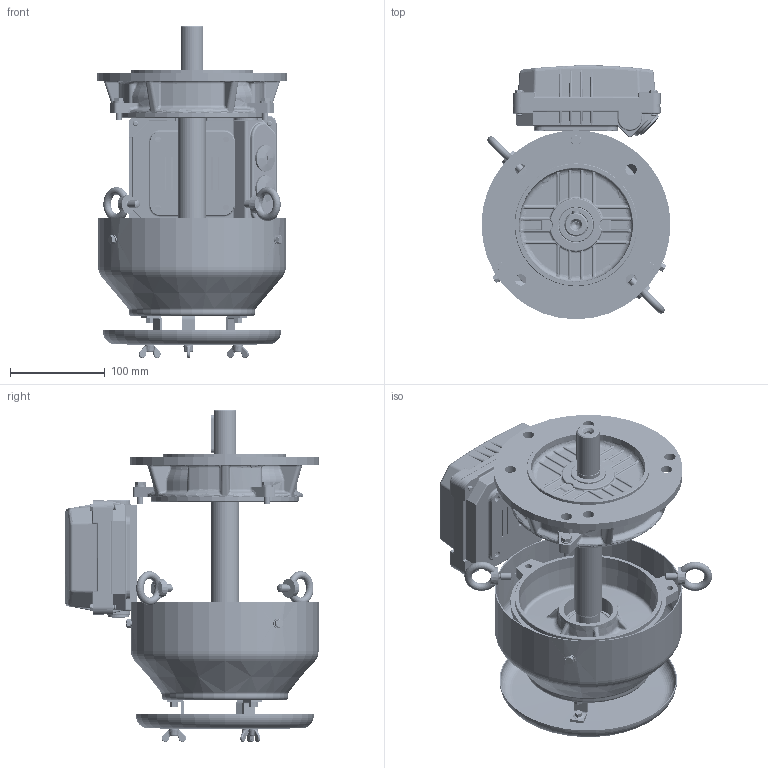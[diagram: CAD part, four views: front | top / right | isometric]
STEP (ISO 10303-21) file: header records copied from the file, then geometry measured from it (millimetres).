
FILE_DESCRIPTION (( 'STEP AP203' ), '1' );
FILE_NAME ('0209000510_RevD.STEP', '2023-05-05T07:41:00', ( '' ), ( '' ), 'SwSTEP 2.0', 'SolidWorks 2021', '' );
FILE_SCHEMA (( 'CONFIG_CONTROL_DESIGN' ));
Length unit declared in the file: inch
Products named in the file (1): 0209000510_RevD
Bounding box: 200 x 269.5 x 351.25 mm (x, y, z)
Volume: 1279382.7 mm3; surface area: 651607.9 mm2
Topology: 48 solids, 48 shells, 4499 faces, 11015 edges, 6608 vertices
Faces by surface type: cylinder 1618, bspline 950, plane 831, cone 661, torus 342, sphere 97
Entity records: 284687 total; most frequent: CARTESIAN_POINT 125522, ORIENTED_EDGE 36020, DIRECTION 30393, EDGE_CURVE 18010, AXIS2_PLACEMENT_3D 12513, VERTEX_POINT 10921, EDGE_LOOP 7909, FACE_OUTER_BOUND 7318
